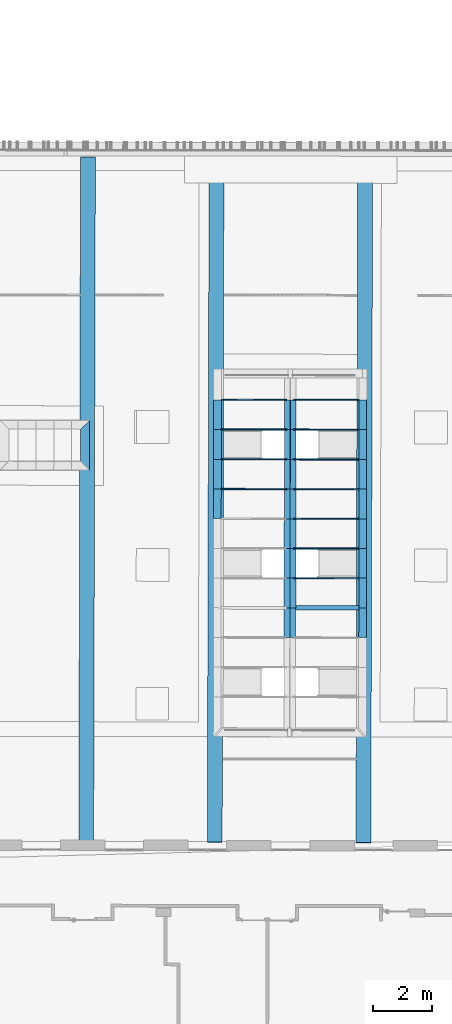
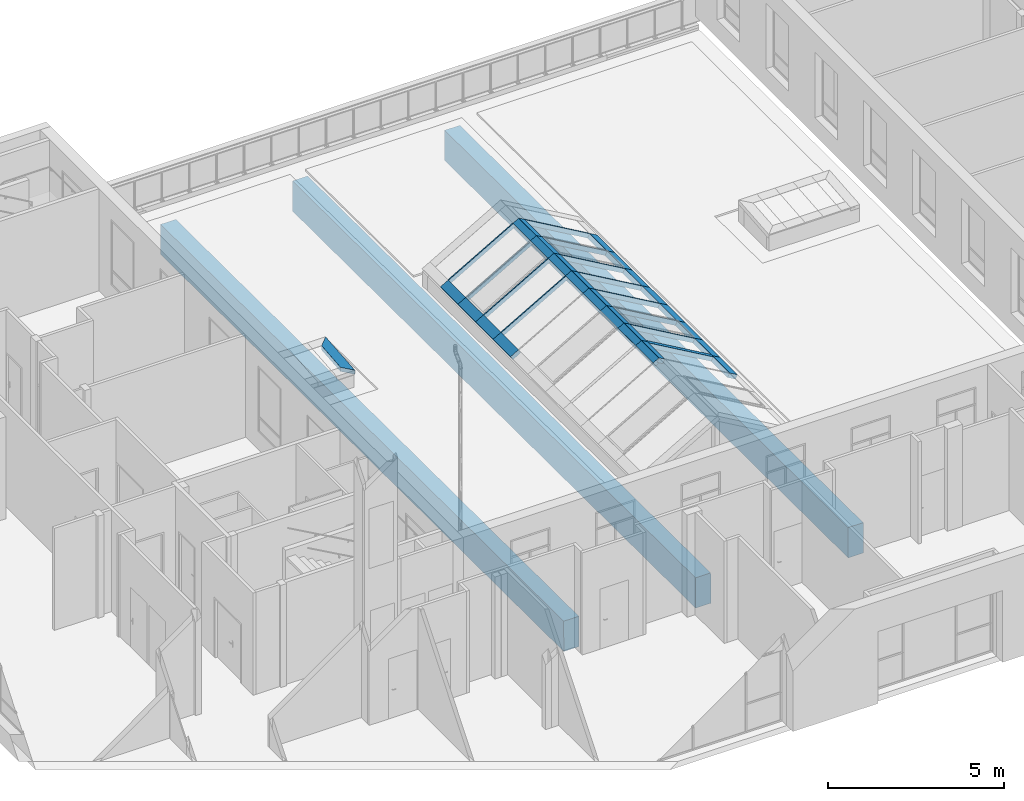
# One storey, part 11 of 101: 41 members, 3 beams, 2 elements without a shape of their own.
"""IFC2X3 building model written with IfcOpenShell, lengths in metres."""

from ifc_helpers import new_model, entity, si_unit, converted_unit, derived_unit, direction, frame, frame_2d, origin, origin_2d_with_axis, place, context, subcontext, project, spatial, polyline, rectangle, outline, extrude, source, transform, mapped, material, type_object, type_shapes, element, aggregate, save


model = new_model("IFC2X3")

# Units and contexts
model_context = context("Model", 3, precision=1e-05, world=origin(), true_north=direction((6.123233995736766e-17, 1.0)))
body_context = subcontext(model_context, "Body", "Model", "MODEL_VIEW")
ifc_project = project(units=[si_unit("LENGTHUNIT", "METRE"), si_unit("AREAUNIT", "SQUARE_METRE"), converted_unit("PLANEANGLEUNIT", "DEGREE", entity("IfcPlaneAngleMeasure", 0.017453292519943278), si_unit("PLANEANGLEUNIT", "RADIAN"), dimensions=[0, 0, 0, 0, 0, 0, 0]), derived_unit("THERMALTRANSMITTANCEUNIT", [(si_unit("MASSUNIT", "GRAM", prefix="KILO"), 1), (si_unit("THERMODYNAMICTEMPERATUREUNIT", "KELVIN"), -1), (si_unit("TIMEUNIT", "SECOND"), -3)])], contexts=[model_context])

# Site, building, storey
site_placement = place(None, frame((1253.6752467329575, 2072.143113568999, 91.49999999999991), z_axis=(0.0, 0.0, 1.0), x_axis=(0.7237211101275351, 0.6900925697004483, 0.0)))
site = spatial("IfcSite", under=ifc_project, at=site_placement, Name="Surface", CompositionType="ELEMENT")
building_placement = place(site_placement, origin())
building = spatial("IfcBuilding", under=site, at=building_placement, CompositionType="ELEMENT")
storey_placement = place(building_placement, origin())
storey = spatial("IfcBuildingStorey", under=building, at=storey_placement, Name="0- Rdc", CompositionType="ELEMENT", Elevation=-5.764692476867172e-13)

# Beams
ifc_material_1 = material(Name="OMD_beton brut")
beam_type = type_object("IfcBeamType", Name="ART-Béton - Poutre rectangulaire:Po 50x105", PredefinedType="BEAM")
beam_1_placement = place(storey_placement, frame((162.72196122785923, -1.5132766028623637, -0.7525000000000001), z_axis=(0.006163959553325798, 0.006430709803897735, 0.9999603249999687), x_axis=(0.6919478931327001, 0.721892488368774, -0.008907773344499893)))
element("IfcBeam", 1, at=beam_1_placement, inside=storey, type_object=beam_type, material=ifc_material_1, Name="ART-Béton - Poutre rectangulaire:Po 50x105", ObjectType="ART-Béton - Poutre rectangulaire:Po 50x105", context=body_context, shape_type="SweptSolid", body=[
    extrude(rectangle(XDim=1.0499999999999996, YDim=0.4999999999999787, at=frame_2d((1.6653345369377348e-16, 4.718447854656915e-16), x_axis=(1.0, 0.0))), frame((0.0, 0.0, -0.5250000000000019), z_axis=(1.0, 0.0, 0.0), x_axis=(0.0, 0.0, -1.0)), (0.0, 0.0, 1.0), 23.069738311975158),
])
beam_2_placement = place(storey_placement, frame((165.848541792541, -4.509942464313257, -0.7525000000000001), z_axis=(0.006163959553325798, 0.006430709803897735, 0.9999603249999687), x_axis=(0.6919478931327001, 0.721892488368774, -0.008907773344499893)))
element("IfcBeam", 2, at=beam_2_placement, inside=storey, type_object=beam_type, material=ifc_material_1, Name="ART-Béton - Poutre rectangulaire:Po 50x105", ObjectType="ART-Béton - Poutre rectangulaire:Po 50x105", context=body_context, shape_type="SweptSolid", body=[
    extrude(rectangle(XDim=1.0499999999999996, YDim=0.4999999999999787, at=frame_2d((1.6653345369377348e-16, 5.551115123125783e-16), x_axis=(1.0, 0.0))), frame((0.0, 0.0, -0.525000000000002), z_axis=(1.0, 0.0, 0.0), x_axis=(0.0, 0.0, -1.0)), (0.0, 0.0, 1.0), 23.069738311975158),
])
beam_3_placement = place(storey_placement, frame((169.46603736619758, -7.97586865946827, -0.7525), z_axis=(0.006158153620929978, 0.006424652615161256, 0.9999603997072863), x_axis=(0.6919479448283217, 0.7218925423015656, -0.008899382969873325)))
element("IfcBeam", 3, at=beam_3_placement, inside=storey, type_object=beam_type, material=ifc_material_1, Name="ART-Béton - Poutre rectangulaire:Po 50x105", ObjectType="ART-Béton - Poutre rectangulaire:Po 50x105", context=body_context, shape_type="SweptSolid", body=[
    extrude(rectangle(XDim=1.0500000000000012, YDim=0.5000000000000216, at=frame_2d((4.440892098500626e-16, -3.608224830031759e-16), x_axis=(1.0, 0.0))), frame((0.0, 0.0, -0.5250000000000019), z_axis=(1.0, 0.0, 0.0), x_axis=(0.0, 0.0, -1.0)), (0.0, 0.0, 1.0), 23.091488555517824),
])

# Roof, member
curtain_wall_type = type_object("IfcCurtainWallType", Name="Vitres inclinées:Toit en verre 1 m x 2 m", PredefinedType="NOTDEFINED")
roof_1_placement = place(storey_placement, origin())
roof_1 = element("IfcRoof", 4, at=roof_1_placement, inside=storey, type_object=curtain_wall_type, Name="Vitres inclinées:Toit en verre 1 m x 2 m", ObjectType="Vitres inclinées:Toit en verre 1 m x 2 m", ShapeType="NOTDEFINED")
ifc_material_2 = material(Name="OMD_Aluminium blanc")
member_type_1 = type_object("IfcMemberType", Name="Meneau rectangulaire:22x300", PredefinedType="MULLION", material=ifc_material_2)
shared_shape_1 = source(origin(), body_context, "Body", "SweptSolid", [
    extrude(outline(polyline([(-0.8424969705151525, -0.14999999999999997), (0.8424761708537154, -0.15), (0.5425180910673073, 0.14999999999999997), (-0.54249729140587, 0.15), (-0.8424969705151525, -0.14999999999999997)])), frame((-0.14999999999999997, -0.00999999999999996, -0.8424969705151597), z_axis=(0.0, 1.0, 0.0), x_axis=(0.0, 0.0, -1.0)), (0.0, 0.0, 1.0), 0.14999999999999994),
])
type_shapes(member_type_1, [shared_shape_1])
member_1_placement = place(roof_1_placement, frame((172.60591152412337, 8.684308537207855, 0.3916548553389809), z_axis=(0.6884557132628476, 0.7200226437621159, 0.0871557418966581), x_axis=(0.7227730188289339, -0.6910854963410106, -9.252295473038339e-08)))
member_1 = element("IfcMember", 5, at=member_1_placement, type_object=member_type_1, material=ifc_material_2, Name="Meneau rectangulaire:22x300", ObjectType="Meneau rectangulaire:22x300", context=body_context, shape_type="MappedRepresentation", body=[
    mapped(shared_shape_1, transform((0.0, 0.0, 0.0), scale=1.0)),
])
aggregate(roof_1, [member_1])

# Roof, members
roof_2_placement = place(storey_placement, origin())
roof_2 = element("IfcRoof", 6, at=roof_2_placement, inside=storey, type_object=curtain_wall_type, Name="Vitres inclinées:Toit en verre 1 m x 2 m", ObjectType="Vitres inclinées:Toit en verre 1 m x 2 m", ShapeType="NOTDEFINED")
member_type_2 = type_object("IfcMemberType", Name="Meneau rectangulaire:37.5x150", PredefinedType="MULLION", material=ifc_material_2)
shared_shape_2 = source(origin(), body_context, "Body", "SweptSolid", [
    extrude(rectangle(XDim=0.0376, YDim=0.14999999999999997, at=origin_2d_with_axis()), frame((0.0, 0.06499999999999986, -2.452048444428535), z_axis=(0.0, 0.0, 1.0), x_axis=(-1.0, 0.0, 0.0)), (0.0, 0.0, 1.0), 2.452048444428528),
])
type_shapes(member_type_2, [shared_shape_2])
member_2_placement = place(roof_2_placement, frame((177.8355704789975, 4.65297012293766, 1.621923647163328), z_axis=(0.6260239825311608, -0.5984095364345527, 0.5000000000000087), x_axis=(-0.6909838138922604, -0.7228702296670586, 0.0)))
member_2 = element("IfcMember", 7, at=member_2_placement, type_object=member_type_2, material=ifc_material_2, Name="Meneau rectangulaire:37.5x150", ObjectType="Meneau rectangulaire:37.5x150", context=body_context, shape_type="MappedRepresentation", body=[
    mapped(shared_shape_2, transform((0.0, 0.0, 0.0), scale=1.0)),
])
member_3_placement = place(roof_2_placement, frame((177.14460733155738, 3.930121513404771, 1.621923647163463), z_axis=(0.6260239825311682, -0.5984095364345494, 0.5000000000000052), x_axis=(-0.6909838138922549, -0.7228702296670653, 0.0)))
member_3 = element("IfcMember", 8, at=member_3_placement, type_object=member_type_2, material=ifc_material_2, Name="Meneau rectangulaire:37.5x150", ObjectType="Meneau rectangulaire:37.5x150", context=body_context, shape_type="MappedRepresentation", body=[
    mapped(shared_shape_2, transform((0.0, 0.0, 0.0), scale=1.0)),
])
member_4_placement = place(roof_2_placement, frame((175.75760974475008, 2.4791189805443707, 1.621923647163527), z_axis=(0.6260239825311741, -0.5984095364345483, 0.5000000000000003), x_axis=(-0.6909838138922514, -0.7228702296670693, 0.0)))
member_4 = element("IfcMember", 9, at=member_4_placement, type_object=member_type_2, material=ifc_material_2, Name="Meneau rectangulaire:37.5x150", ObjectType="Meneau rectangulaire:37.5x150", context=body_context, shape_type="MappedRepresentation", body=[
    mapped(shared_shape_2, transform((0.0, 0.0, 0.0), scale=1.0)),
])
member_5_placement = place(roof_2_placement, frame((176.44861422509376, 3.202010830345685, 1.6219236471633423), z_axis=(0.6260239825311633, -0.5984095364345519, 0.5000000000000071), x_axis=(-0.6909838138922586, -0.7228702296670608, 0.0)))
member_5 = element("IfcMember", 10, at=member_5_placement, type_object=member_type_2, material=ifc_material_2, Name="Meneau rectangulaire:37.5x150", ObjectType="Meneau rectangulaire:37.5x150", context=body_context, shape_type="MappedRepresentation", body=[
    mapped(shared_shape_2, transform((0.0, 0.0, 0.0), scale=1.0)),
])
member_6_placement = place(roof_2_placement, frame((178.11102103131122, 4.38966992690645, 1.6219236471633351), z_axis=(-0.6260239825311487, 0.5984095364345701, 0.5000000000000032), x_axis=(0.6909838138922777, 0.7228702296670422, 0.0)))
member_6 = element("IfcMember", 11, at=member_6_placement, type_object=member_type_2, material=ifc_material_2, Name="Meneau rectangulaire:37.5x150", ObjectType="Meneau rectangulaire:37.5x150", context=body_context, shape_type="MappedRepresentation", body=[
    mapped(shared_shape_2, transform((0.0, 0.0, 0.0), scale=1.0)),
])
member_type_3 = type_object("IfcMemberType", Name="Meneau rectangulaire:22x300", PredefinedType="MULLION", material=ifc_material_2)
shared_shape_3 = source(origin(), body_context, "Body", "SweptSolid", [
    extrude(rectangle(XDim=0.29999999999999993, YDim=0.14999999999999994, at=frame_2d((1.3877787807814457e-17, 0.0), x_axis=(1.0, 0.0))), frame((-0.14999999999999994, 0.06500000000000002, -1.0), z_axis=(0.0, 0.0, 1.0), x_axis=(-1.0, 0.0, 0.0)), (0.0, 0.0, 1.0), 1.0000000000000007),
])
type_shapes(member_type_3, [shared_shape_3])
member_7_placement = place(roof_2_placement, frame((175.42175900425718, 5.576973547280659, 0.24589942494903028), z_axis=(-0.6909838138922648, -0.7228702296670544, 0.0), x_axis=(-0.6260239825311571, 0.5984095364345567, -0.5000000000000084)))
member_7 = element("IfcMember", 12, at=member_7_placement, type_object=member_type_3, material=ifc_material_2, Name="Meneau rectangulaire:22x300", ObjectType="Meneau rectangulaire:22x300", context=body_context, shape_type="MappedRepresentation", body=[
    mapped(shared_shape_3, transform((0.0, 0.0, 0.0), scale=1.0)),
])
member_8_placement = place(roof_2_placement, frame((174.0347614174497, 4.125971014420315, 0.24589942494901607), z_axis=(-0.6909838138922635, -0.7228702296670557, 0.0), x_axis=(-0.6260239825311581, 0.5984095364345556, -0.5000000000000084)))
member_8 = element("IfcMember", 13, at=member_8_placement, type_object=member_type_3, material=ifc_material_2, Name="Meneau rectangulaire:22x300", ObjectType="Meneau rectangulaire:22x300", context=body_context, shape_type="MappedRepresentation", body=[
    mapped(shared_shape_3, transform((0.0, 0.0, 0.0), scale=1.0)),
])
member_9_placement = place(roof_2_placement, frame((173.34377760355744, 3.4031007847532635, 0.24589942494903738), z_axis=(-0.6909838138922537, -0.722870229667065, 0.0), x_axis=(-0.6260239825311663, 0.5984095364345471, -0.5000000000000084)))
member_9 = element("IfcMember", 14, at=member_9_placement, type_object=member_type_3, material=ifc_material_2, Name="Meneau rectangulaire:22x300", ObjectType="Meneau rectangulaire:22x300", context=body_context, shape_type="MappedRepresentation", body=[
    mapped(shared_shape_3, transform((0.0, 0.0, 0.0), scale=1.0)),
])
member_10_placement = place(roof_2_placement, frame((179.83386935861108, 2.742817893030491, 0.24589942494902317), z_axis=(0.6909838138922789, 0.7228702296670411, 0.0), x_axis=(0.6260239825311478, -0.5984095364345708, -0.5000000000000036)))
member_10 = element("IfcMember", 15, at=member_10_placement, type_object=member_type_3, material=ifc_material_2, Name="Meneau rectangulaire:22x300", ObjectType="Meneau rectangulaire:22x300", context=body_context, shape_type="MappedRepresentation", body=[
    mapped(shared_shape_3, transform((0.0, 0.0, 0.0), scale=1.0)),
])
member_type_4 = type_object("IfcMemberType", Name="Meneau rectangulaire:22x150", PredefinedType="MULLION", material=ifc_material_2)
shared_shape_4 = source(origin(), body_context, "Body", "SweptSolid", [
    extrude(rectangle(XDim=0.22, YDim=0.14999999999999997, at=origin_2d_with_axis()), frame((-0.10999999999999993, 0.06499999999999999, -1.0072495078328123), z_axis=(0.0, 0.0, 1.0), x_axis=(-1.0, 0.0, 0.0)), (0.0, 0.0, 1.0), 1.0072495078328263),
])
type_shapes(member_type_4, [shared_shape_4])
member_11_placement = place(roof_2_placement, frame((177.28233260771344, 3.7984714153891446, 1.7319236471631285), z_axis=(0.6909838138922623, 0.722870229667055, 0.0), x_axis=(0.6260239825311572, -0.5984095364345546, 0.5000000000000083)))
member_11 = element("IfcMember", 16, at=member_11_placement, type_object=member_type_4, material=ifc_material_2, Name="Meneau rectangulaire:22x150", ObjectType="Meneau rectangulaire:22x150", context=body_context, shape_type="MappedRepresentation", body=[
    mapped(shared_shape_4, transform((0.0, 0.0, 0.0), scale=1.0)),
])
member_12_placement = place(roof_2_placement, frame((176.58633950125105, 3.0703607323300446, 1.7319236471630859), z_axis=(-0.6909838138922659, -0.7228702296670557, 0.0), x_axis=(-0.6260239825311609, 0.5984095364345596, 0.5000000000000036)))
member_12 = element("IfcMember", 17, at=member_12_placement, type_object=member_type_4, material=ifc_material_2, Name="Meneau rectangulaire:22x150", ObjectType="Meneau rectangulaire:22x150", context=body_context, shape_type="MappedRepresentation", body=[
    mapped(shared_shape_4, transform((0.0, 0.0, 0.0), scale=1.0)),
])
member_type_5 = type_object("IfcMemberType", Name="Meneau rectangulaire:22x150", PredefinedType="MULLION", material=ifc_material_2)
shared_shape_5 = source(origin(), body_context, "Body", "SweptSolid", [
    extrude(rectangle(XDim=0.22000000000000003, YDim=0.14999999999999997, at=frame_2d((-6.938893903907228e-18, 0.0), x_axis=(1.0, 0.0))), frame((-0.10999999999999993, 0.06499999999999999, -1.0), z_axis=(0.0, 0.0, 1.0), x_axis=(-1.0, 0.0, 0.0)), (0.0, 0.0, 1.0), 1.0000000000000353),
])
type_shapes(member_type_5, [shared_shape_5])
member_13_placement = place(roof_2_placement, frame((175.89533502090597, 2.3474688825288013, 1.7319236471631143), z_axis=(0.6909838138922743, 0.7228702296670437, 0.0), x_axis=(0.6260239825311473, -0.598409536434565, 0.5000000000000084)))
member_13 = element("IfcMember", 18, at=member_13_placement, type_object=member_type_5, material=ifc_material_2, Name="Meneau rectangulaire:22x150", ObjectType="Meneau rectangulaire:22x150", context=body_context, shape_type="MappedRepresentation", body=[
    mapped(shared_shape_5, transform((0.0, 0.0, 0.0), scale=1.0)),
])
member_14_placement = place(roof_2_placement, frame((175.2043512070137, 1.6245986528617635, 1.7319236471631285), z_axis=(0.6909838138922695, 0.7228702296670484, 0.0), x_axis=(0.6260239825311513, -0.5984095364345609, 0.5000000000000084)))
member_14 = element("IfcMember", 19, at=member_14_placement, type_object=member_type_5, material=ifc_material_2, Name="Meneau rectangulaire:22x150", ObjectType="Meneau rectangulaire:22x150", context=body_context, shape_type="MappedRepresentation", body=[
    mapped(shared_shape_5, transform((0.0, 0.0, 0.0), scale=1.0)),
])
member_15_placement = place(roof_2_placement, frame((173.822404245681, 0.1788798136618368, 1.7319236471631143), z_axis=(0.6909838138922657, 0.7228702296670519, 0.0), x_axis=(0.6260239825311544, -0.5984095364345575, 0.5000000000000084)))
member_15 = element("IfcMember", 20, at=member_15_placement, type_object=member_type_5, material=ifc_material_2, Name="Meneau rectangulaire:22x150", ObjectType="Meneau rectangulaire:22x150", context=body_context, shape_type="MappedRepresentation", body=[
    mapped(shared_shape_5, transform((0.0, 0.0, 0.0), scale=1.0)),
])
member_16_placement = place(roof_2_placement, frame((173.1313997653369, -0.5440120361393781, 1.7319236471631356), z_axis=(0.6909838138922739, 0.722870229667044, 0.0), x_axis=(0.6260239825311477, -0.5984095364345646, 0.5000000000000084)))
member_16 = element("IfcMember", 21, at=member_16_placement, type_object=member_type_5, material=ifc_material_2, Name="Meneau rectangulaire:22x150", ObjectType="Meneau rectangulaire:22x150", context=body_context, shape_type="MappedRepresentation", body=[
    mapped(shared_shape_5, transform((0.0, 0.0, 0.0), scale=1.0)),
])
member_17_placement = place(roof_2_placement, frame((176.5863395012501, 3.0703607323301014, 1.7319236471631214), z_axis=(0.6909838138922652, 0.7228702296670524, 0.0), x_axis=(0.6260239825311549, -0.5984095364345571, 0.5000000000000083)))
member_17 = element("IfcMember", 22, at=member_17_placement, type_object=member_type_5, material=ifc_material_2, Name="Meneau rectangulaire:22x150", ObjectType="Meneau rectangulaire:22x150", context=body_context, shape_type="MappedRepresentation", body=[
    mapped(shared_shape_5, transform((0.0, 0.0, 0.0), scale=1.0)),
])
member_18_placement = place(roof_2_placement, frame((174.51338805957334, 0.9017500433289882, 1.7319236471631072), z_axis=(0.6909838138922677, 0.72287022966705, 0.0), x_axis=(0.6260239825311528, -0.5984095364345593, 0.5000000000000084)))
member_18 = element("IfcMember", 23, at=member_18_placement, type_object=member_type_5, material=ifc_material_2, Name="Meneau rectangulaire:22x150", ObjectType="Meneau rectangulaire:22x150", context=body_context, shape_type="MappedRepresentation", body=[
    mapped(shared_shape_5, transform((0.0, 0.0, 0.0), scale=1.0)),
])
member_19_placement = place(roof_2_placement, frame((177.9732957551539, 4.521320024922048, 1.7319236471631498), z_axis=(0.6909838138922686, 0.7228702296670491, 0.0), x_axis=(0.626023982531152, -0.5984095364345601, 0.5000000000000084)))
member_19 = element("IfcMember", 24, at=member_19_placement, type_object=member_type_5, material=ifc_material_2, Name="Meneau rectangulaire:22x150", ObjectType="Meneau rectangulaire:22x150", context=body_context, shape_type="MappedRepresentation", body=[
    mapped(shared_shape_5, transform((0.0, 0.0, 0.0), scale=1.0)),
])
member_20_placement = place(roof_2_placement, frame((172.4404159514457, -1.2668822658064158, 1.731923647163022), z_axis=(-0.6909838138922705, -0.7228702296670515, 0.0), x_axis=(-0.6260239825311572, 0.5984095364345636, 0.5000000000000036)))
member_20 = element("IfcMember", 25, at=member_20_placement, type_object=member_type_5, material=ifc_material_2, Name="Meneau rectangulaire:22x150", ObjectType="Meneau rectangulaire:22x150", context=body_context, shape_type="MappedRepresentation", body=[
    mapped(shared_shape_5, transform((0.0, 0.0, 0.0), scale=1.0)),
])
member_21_placement = place(roof_2_placement, frame((173.1313997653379, -0.5440120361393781, 1.7319236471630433), z_axis=(-0.6909838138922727, -0.7228702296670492, 0.0), x_axis=(-0.6260239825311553, 0.5984095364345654, 0.5000000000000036)))
member_21 = element("IfcMember", 26, at=member_21_placement, type_object=member_type_5, material=ifc_material_2, Name="Meneau rectangulaire:22x150", ObjectType="Meneau rectangulaire:22x150", context=body_context, shape_type="MappedRepresentation", body=[
    mapped(shared_shape_5, transform((0.0, 0.0, 0.0), scale=1.0)),
])
member_22_placement = place(roof_2_placement, frame((173.822404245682, 0.17887981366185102, 1.731923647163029), z_axis=(-0.6909838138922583, -0.722870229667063, 0.0), x_axis=(-0.6260239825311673, 0.5984095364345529, 0.5000000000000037)))
member_22 = element("IfcMember", 27, at=member_22_placement, type_object=member_type_5, material=ifc_material_2, Name="Meneau rectangulaire:22x150", ObjectType="Meneau rectangulaire:22x150", context=body_context, shape_type="MappedRepresentation", body=[
    mapped(shared_shape_5, transform((0.0, 0.0, 0.0), scale=1.0)),
])
member_23_placement = place(roof_2_placement, frame((174.5133880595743, 0.901750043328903, 1.7319236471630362), z_axis=(-0.6909838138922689, -0.7228702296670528, 0.0), x_axis=(-0.6260239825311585, 0.5984095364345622, 0.5000000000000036)))
member_23 = element("IfcMember", 28, at=member_23_placement, type_object=member_type_5, material=ifc_material_2, Name="Meneau rectangulaire:22x150", ObjectType="Meneau rectangulaire:22x150", context=body_context, shape_type="MappedRepresentation", body=[
    mapped(shared_shape_5, transform((0.0, 0.0, 0.0), scale=1.0)),
])
member_24_placement = place(roof_2_placement, frame((175.20435120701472, 1.6245986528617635, 1.7319236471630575), z_axis=(-0.6909838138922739, -0.722870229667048, 0.0), x_axis=(-0.6260239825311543, 0.5984095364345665, 0.5000000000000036)))
member_24 = element("IfcMember", 29, at=member_24_placement, type_object=member_type_5, material=ifc_material_2, Name="Meneau rectangulaire:22x150", ObjectType="Meneau rectangulaire:22x150", context=body_context, shape_type="MappedRepresentation", body=[
    mapped(shared_shape_5, transform((0.0, 0.0, 0.0), scale=1.0)),
])
member_25_placement = place(roof_2_placement, frame((175.895335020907, 2.3474688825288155, 1.7319236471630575), z_axis=(-0.690983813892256, -0.7228702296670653, 0.0), x_axis=(-0.6260239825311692, 0.5984095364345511, 0.5000000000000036)))
member_25 = element("IfcMember", 30, at=member_25_placement, type_object=member_type_5, material=ifc_material_2, Name="Meneau rectangulaire:22x150", ObjectType="Meneau rectangulaire:22x150", context=body_context, shape_type="MappedRepresentation", body=[
    mapped(shared_shape_5, transform((0.0, 0.0, 0.0), scale=1.0)),
])
member_26_placement = place(roof_2_placement, frame((177.28233260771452, 3.798471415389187, 1.7319236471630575), z_axis=(-0.6909838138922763, -0.722870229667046, 0.0), x_axis=(-0.6260239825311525, 0.5984095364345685, 0.5000000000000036)))
member_26 = element("IfcMember", 31, at=member_26_placement, type_object=member_type_5, material=ifc_material_2, Name="Meneau rectangulaire:22x150", ObjectType="Meneau rectangulaire:22x150", context=body_context, shape_type="MappedRepresentation", body=[
    mapped(shared_shape_5, transform((0.0, 0.0, 0.0), scale=1.0)),
])
member_type_6 = type_object("IfcMemberType", Name="Meneau rectangulaire:22x300", PredefinedType="MULLION", material=ifc_material_2)
shared_shape_6 = source(origin(), body_context, "Body", "SweptSolid", [
    extrude(rectangle(XDim=0.29999999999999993, YDim=0.15000000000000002, at=frame_2d((-1.3877787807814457e-17, 0.0), x_axis=(1.0, 0.0))), frame((-0.15000000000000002, 0.06499999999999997, -1.0072495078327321), z_axis=(0.0, 0.0, 1.0), x_axis=(-1.0, 0.0, 0.0)), (0.0, 0.0, 1.0), 1.0072495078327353),
])
type_shapes(member_type_6, [shared_shape_6])
member_27_placement = place(roof_2_placement, frame((174.7257658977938, 4.848862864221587, 0.24589942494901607), z_axis=(-0.69098381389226, -0.7228702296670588, 0.0), x_axis=(-0.626023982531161, 0.5984095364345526, -0.5000000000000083)))
member_27 = element("IfcMember", 32, at=member_27_placement, type_object=member_type_6, material=ifc_material_2, Name="Meneau rectangulaire:22x300", ObjectType="Meneau rectangulaire:22x300", context=body_context, shape_type="MappedRepresentation", body=[
    mapped(shared_shape_6, transform((0.0, 0.0, 0.0), scale=1.0)),
])
member_type_7 = type_object("IfcMemberType", Name="Meneau rectangulaire:22x300", PredefinedType="MULLION", material=ifc_material_2)
shared_shape_7 = source(origin(), body_context, "Body", "SweptSolid", [
    extrude(rectangle(XDim=0.29999999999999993, YDim=0.14999999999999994, at=frame_2d((-1.3877787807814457e-17, 0.0), x_axis=(1.0, 0.0))), frame((-0.1499999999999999, 0.06499999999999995, -1.0), z_axis=(0.0, 0.0, 1.0), x_axis=(-1.0, 0.0, 0.0)), (0.0, 0.0, 1.0), 1.0000000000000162),
])
type_shapes(member_type_7, [shared_shape_7])
member_28_placement = place(roof_2_placement, frame((174.99197336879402, -2.3225141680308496, 0.24589942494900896), z_axis=(0.6909838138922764, 0.7228702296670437, 0.0), x_axis=(0.62602398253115, -0.5984095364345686, -0.5000000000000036)))
member_28 = element("IfcMember", 33, at=member_28_placement, type_object=member_type_7, material=ifc_material_2, Name="Meneau rectangulaire:22x300", ObjectType="Meneau rectangulaire:22x300", context=body_context, shape_type="MappedRepresentation", body=[
    mapped(shared_shape_7, transform((0.0, 0.0, 0.0), scale=1.0)),
])
member_29_placement = place(roof_2_placement, frame((175.68297784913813, -1.5996223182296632, 0.24589942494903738), z_axis=(0.6909838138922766, 0.7228702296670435, 0.0), x_axis=(0.6260239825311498, -0.5984095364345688, -0.5000000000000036)))
member_29 = element("IfcMember", 34, at=member_29_placement, type_object=member_type_7, material=ifc_material_2, Name="Meneau rectangulaire:22x300", ObjectType="Meneau rectangulaire:22x300", context=body_context, shape_type="MappedRepresentation", body=[
    mapped(shared_shape_7, transform((0.0, 0.0, 0.0), scale=1.0)),
])
member_30_placement = place(roof_2_placement, frame((176.3739616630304, -0.8767520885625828, 0.24589942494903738), z_axis=(0.6909838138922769, 0.7228702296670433, 0.0), x_axis=(0.6260239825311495, -0.5984095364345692, -0.5000000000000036)))
member_30 = element("IfcMember", 35, at=member_30_placement, type_object=member_type_7, material=ifc_material_2, Name="Meneau rectangulaire:22x300", ObjectType="Meneau rectangulaire:22x300", context=body_context, shape_type="MappedRepresentation", body=[
    mapped(shared_shape_7, transform((0.0, 0.0, 0.0), scale=1.0)),
])
member_31_placement = place(roof_2_placement, frame((177.0649248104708, -0.15390347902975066, 0.24589942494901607), z_axis=(0.6909838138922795, 0.7228702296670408, 0.0), x_axis=(0.6260239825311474, -0.5984095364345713, -0.5000000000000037)))
member_31 = element("IfcMember", 36, at=member_31_placement, type_object=member_type_7, material=ifc_material_2, Name="Meneau rectangulaire:22x300", ObjectType="Meneau rectangulaire:22x300", context=body_context, shape_type="MappedRepresentation", body=[
    mapped(shared_shape_7, transform((0.0, 0.0, 0.0), scale=1.0)),
])
member_32_placement = place(roof_2_placement, frame((177.7559086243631, 0.5689667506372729, 0.24589942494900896), z_axis=(0.6909838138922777, 0.7228702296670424, 0.0), x_axis=(0.6260239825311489, -0.5984095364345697, -0.5000000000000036)))
member_32 = element("IfcMember", 37, at=member_32_placement, type_object=member_type_7, material=ifc_material_2, Name="Meneau rectangulaire:22x300", ObjectType="Meneau rectangulaire:22x300", context=body_context, shape_type="MappedRepresentation", body=[
    mapped(shared_shape_7, transform((0.0, 0.0, 0.0), scale=1.0)),
])
member_33_placement = place(roof_2_placement, frame((178.4469131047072, 1.2918586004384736, 0.24589942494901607), z_axis=(0.6909838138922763, 0.7228702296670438, 0.0), x_axis=(0.6260239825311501, -0.5984095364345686, -0.5000000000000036)))
member_33 = element("IfcMember", 38, at=member_33_placement, type_object=member_type_7, material=ifc_material_2, Name="Meneau rectangulaire:22x300", ObjectType="Meneau rectangulaire:22x300", context=body_context, shape_type="MappedRepresentation", body=[
    mapped(shared_shape_7, transform((0.0, 0.0, 0.0), scale=1.0)),
])
member_type_8 = type_object("IfcMemberType", Name="Meneau rectangulaire:37.5x150", PredefinedType="MULLION", material=ifc_material_2)
shared_shape_8 = source(origin(), body_context, "Body", "SweptSolid", [
    extrude(rectangle(XDim=0.0376, YDim=0.15, at=origin_2d_with_axis()), frame((0.0, 0.06499999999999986, -2.4520484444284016), z_axis=(0.0, 0.0, 1.0), x_axis=(-1.0, 0.0, 0.0)), (0.0, 0.0, 1.0), 2.452048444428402),
])
type_shapes(member_type_8, [shared_shape_8])
member_34_placement = place(roof_2_placement, frame((173.9601295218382, 0.0472297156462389, 1.6219236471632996), z_axis=(-0.6260239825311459, 0.59840953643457, 0.5000000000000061), x_axis=(0.6909838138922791, 0.7228702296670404, 0.0)))
member_34 = element("IfcMember", 39, at=member_34_placement, type_object=member_type_8, material=ifc_material_2, Name="Meneau rectangulaire:37.5x150", ObjectType="Meneau rectangulaire:37.5x150", context=body_context, shape_type="MappedRepresentation", body=[
    mapped(shared_shape_8, transform((0.0, 0.0, 0.0), scale=1.0)),
])
member_35_placement = place(roof_2_placement, frame((174.65111333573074, 0.7700999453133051, 1.6219236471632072), z_axis=(-0.6260239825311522, 0.5984095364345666, 0.500000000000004), x_axis=(0.6909838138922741, 0.7228702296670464, 0.0)))
member_35 = element("IfcMember", 40, at=member_35_placement, type_object=member_type_8, material=ifc_material_2, Name="Meneau rectangulaire:37.5x150", ObjectType="Meneau rectangulaire:37.5x150", context=body_context, shape_type="MappedRepresentation", body=[
    mapped(shared_shape_8, transform((0.0, 0.0, 0.0), scale=1.0)),
])
member_36_placement = place(roof_2_placement, frame((175.342076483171, 1.4929485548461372, 1.621923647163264), z_axis=(-0.6260239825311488, 0.5984095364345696, 0.5000000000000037), x_axis=(0.6909838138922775, 0.7228702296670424, 0.0)))
member_36 = element("IfcMember", 41, at=member_36_placement, type_object=member_type_8, material=ifc_material_2, Name="Meneau rectangulaire:37.5x150", ObjectType="Meneau rectangulaire:37.5x150", context=body_context, shape_type="MappedRepresentation", body=[
    mapped(shared_shape_8, transform((0.0, 0.0, 0.0), scale=1.0)),
])
member_37_placement = place(roof_2_placement, frame((176.03306029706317, 2.215818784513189, 1.621923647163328), z_axis=(-0.6260239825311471, 0.5984095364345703, 0.5000000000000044), x_axis=(0.6909838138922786, 0.7228702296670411, 0.0)))
member_37 = element("IfcMember", 42, at=member_37_placement, type_object=member_type_8, material=ifc_material_2, Name="Meneau rectangulaire:37.5x150", ObjectType="Meneau rectangulaire:37.5x150", context=body_context, shape_type="MappedRepresentation", body=[
    mapped(shared_shape_8, transform((0.0, 0.0, 0.0), scale=1.0)),
])
member_38_placement = place(roof_2_placement, frame((176.72406477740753, 2.9387106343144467, 1.6219236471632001), z_axis=(-0.626023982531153, 0.5984095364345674, 0.5000000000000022), x_axis=(0.6909838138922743, 0.7228702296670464, 0.0)))
member_38 = element("IfcMember", 43, at=member_38_placement, type_object=member_type_8, material=ifc_material_2, Name="Meneau rectangulaire:37.5x150", ObjectType="Meneau rectangulaire:37.5x150", context=body_context, shape_type="MappedRepresentation", body=[
    mapped(shared_shape_8, transform((0.0, 0.0, 0.0), scale=1.0)),
])
member_39_placement = place(roof_2_placement, frame((177.4200578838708, 3.666821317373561, 1.6219236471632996), z_axis=(-0.6260239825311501, 0.5984095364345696, 0.500000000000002), x_axis=(0.6909838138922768, 0.7228702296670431, 0.0)))
member_39 = element("IfcMember", 44, at=member_39_placement, type_object=member_type_8, material=ifc_material_2, Name="Meneau rectangulaire:37.5x150", ObjectType="Meneau rectangulaire:37.5x150", context=body_context, shape_type="MappedRepresentation", body=[
    mapped(shared_shape_8, transform((0.0, 0.0, 0.0), scale=1.0)),
])
ifc_material_3 = material(Name="OMD_Aluminium Men Ext")
member_type_9 = type_object("IfcMemberType", Name="Meneau rectangulaire:150x150", PredefinedType="MULLION", material=ifc_material_3)
shared_shape_9 = source(origin(), body_context, "Body", "SweptSolid", [
    extrude(rectangle(XDim=0.14999999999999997, YDim=0.14999999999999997, at=origin_2d_with_axis()), frame((0.0, 0.06499999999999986, -2.452048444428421), z_axis=(0.0, 0.0, 1.0), x_axis=(-1.0, 0.0, 0.0)), (0.0, 0.0, 1.0), 2.452048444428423),
])
type_shapes(member_type_9, [shared_shape_9])
member_40_placement = place(roof_2_placement, frame((173.2691250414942, -0.675662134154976, 1.6219236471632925), z_axis=(-0.6260239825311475, 0.5984095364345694, 0.5000000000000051), x_axis=(0.6909838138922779, 0.7228702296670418, 0.0)))
member_40 = element("IfcMember", 45, at=member_40_placement, type_object=member_type_9, material=ifc_material_3, Name="Meneau rectangulaire:150x150", ObjectType="Meneau rectangulaire:150x150", context=body_context, shape_type="MappedRepresentation", body=[
    mapped(shared_shape_9, transform((0.0, 0.0, 0.0), scale=1.0)),
])
member_type_10 = type_object("IfcMemberType", Name="Meneau rectangulaire:22x300", PredefinedType="MULLION", material=ifc_material_2)
shared_shape_10 = source(origin(), body_context, "Body", "SweptSolid", [
    extrude(rectangle(XDim=0.29999999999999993, YDim=0.15000000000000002, at=origin_2d_with_axis()), frame((-0.14999999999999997, 0.06499999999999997, -1.0072495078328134), z_axis=(0.0, 0.0, 1.0), x_axis=(-1.0, 0.0, 0.0)), (0.0, 0.0, 1.0), 1.0072495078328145),
])
type_shapes(member_type_10, [shared_shape_10])
member_41_placement = place(roof_2_placement, frame((179.14290621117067, 2.0199692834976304, 0.24589942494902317), z_axis=(0.6909838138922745, 0.7228702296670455, 0.0), x_axis=(0.6260239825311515, -0.598409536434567, -0.5000000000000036)))
member_41 = element("IfcMember", 46, at=member_41_placement, type_object=member_type_10, material=ifc_material_2, Name="Meneau rectangulaire:22x300", ObjectType="Meneau rectangulaire:22x300", context=body_context, shape_type="MappedRepresentation", body=[
    mapped(shared_shape_10, transform((0.0, 0.0, 0.0), scale=1.0)),
])
aggregate(roof_2, [member_2, member_7, member_11, member_3, member_8, member_13, member_4, member_9, member_14, member_15, member_16, member_27, member_17, member_18, member_5, member_19, member_28, member_40, member_29, member_34, member_30, member_35, member_31, member_36, member_32, member_37, member_33, member_38, member_41, member_39, member_10, member_6, member_20, member_21, member_22, member_23, member_24, member_25, member_12, member_26])

save(model, "model.ifc")
